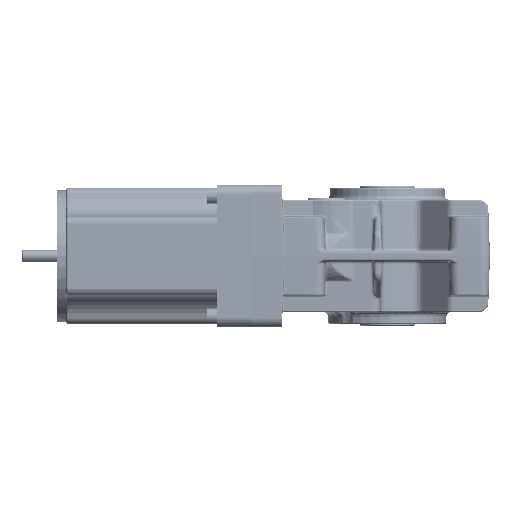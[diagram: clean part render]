
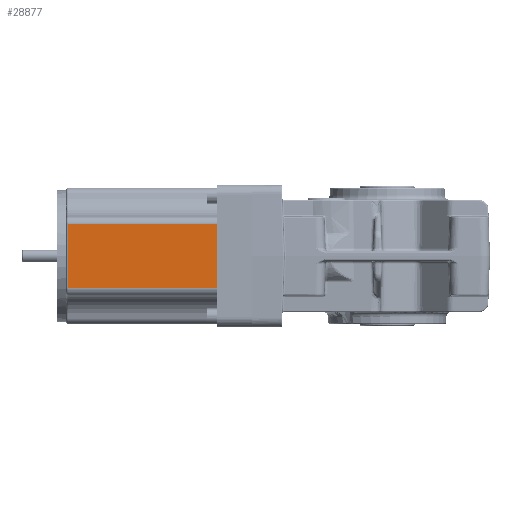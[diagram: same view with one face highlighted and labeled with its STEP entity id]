
A CAD part, front view. The second image highlights one B-rep face of the part: STEP entity #28877.
In plain terms, the highlighted planar face has unit normal (0, -1, 0).
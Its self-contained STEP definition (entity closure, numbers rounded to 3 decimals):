
#14981 = CARTESIAN_POINT ( 'NONE',  ( -280.719, -71.091, 17.364 ) ) ;
#18440 = CARTESIAN_POINT ( 'NONE',  ( -174.219, -71.091, 80.402 ) ) ;
#28877 = ADVANCED_FACE ( 'NONE', ( #261278 ), #240523, .F. ) ;
#31410 = VERTEX_POINT ( 'NONE', #247938 ) ;
#40130 = EDGE_CURVE ( 'NONE', #140530, #31410, #259942, .T. ) ;
#57436 = DIRECTION ( 'NONE',  ( 0., 0., -1. ) ) ;
#58471 = DIRECTION ( 'NONE',  ( 0., 0., -1. ) ) ;
#65870 = DIRECTION ( 'NONE',  ( 0., 0., -1. ) ) ;
#68438 = AXIS2_PLACEMENT_3D ( 'NONE', #18440, #102549, #58471 ) ;
#75041 = DIRECTION ( 'NONE',  ( -1., 0., 0. ) ) ;
#92251 = LINE ( 'NONE', #238433, #189112 ) ;
#102549 = DIRECTION ( 'NONE',  ( 0., 1., 0. ) ) ;
#114306 = DIRECTION ( 'NONE',  ( 1., 0., 0. ) ) ;
#118135 = CARTESIAN_POINT ( 'NONE',  ( -186.719, -71.091, 80.402 ) ) ;
#124711 = ORIENTED_EDGE ( 'NONE', *, *, #40130, .T. ) ;
#131735 = EDGE_LOOP ( 'NONE', ( #186505, #124711, #237518, #176714 ) ) ;
#133357 = LINE ( 'NONE', #172033, #242663 ) ;
#140530 = VERTEX_POINT ( 'NONE', #272925 ) ;
#150190 = VERTEX_POINT ( 'NONE', #152788 ) ;
#152788 = CARTESIAN_POINT ( 'NONE',  ( -186.719, -71.091, 17.364 ) ) ;
#165653 = VECTOR ( 'NONE', #75041, 1000. ) ;
#168853 = EDGE_CURVE ( 'NONE', #31410, #248870, #133357, .T. ) ;
#172033 = CARTESIAN_POINT ( 'NONE',  ( -280.719, -71.091, 17.364 ) ) ;
#176714 = ORIENTED_EDGE ( 'NONE', *, *, #255271, .T. ) ;
#186505 = ORIENTED_EDGE ( 'NONE', *, *, #236232, .F. ) ;
#189112 = VECTOR ( 'NONE', #114306, 1000. ) ;
#207810 = LINE ( 'NONE', #118135, #252338 ) ;
#236232 = EDGE_CURVE ( 'NONE', #140530, #150190, #207810, .T. ) ;
#237518 = ORIENTED_EDGE ( 'NONE', *, *, #168853, .T. ) ;
#238433 = CARTESIAN_POINT ( 'NONE',  ( -174.219, -71.091, 17.364 ) ) ;
#240523 = PLANE ( 'NONE',  #68438 ) ;
#242663 = VECTOR ( 'NONE', #65870, 1000. ) ;
#243287 = CARTESIAN_POINT ( 'NONE',  ( -174.219, -71.091, 57.44 ) ) ;
#247938 = CARTESIAN_POINT ( 'NONE',  ( -280.719, -71.091, 57.44 ) ) ;
#248870 = VERTEX_POINT ( 'NONE', #14981 ) ;
#252338 = VECTOR ( 'NONE', #57436, 1000. ) ;
#255271 = EDGE_CURVE ( 'NONE', #248870, #150190, #92251, .T. ) ;
#259942 = LINE ( 'NONE', #243287, #165653 ) ;
#261278 = FACE_OUTER_BOUND ( 'NONE', #131735, .T. ) ;
#272925 = CARTESIAN_POINT ( 'NONE',  ( -186.719, -71.091, 57.44 ) ) ;
